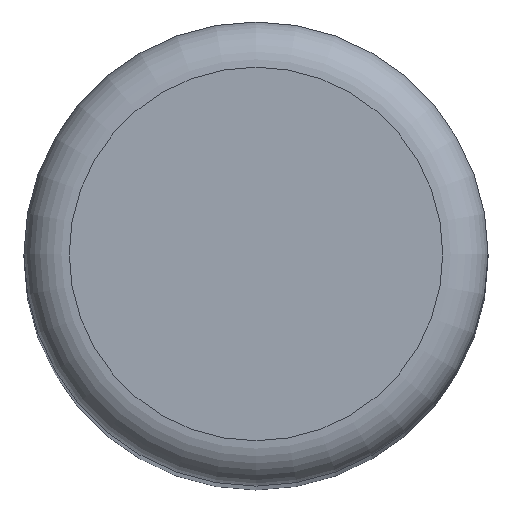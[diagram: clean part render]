
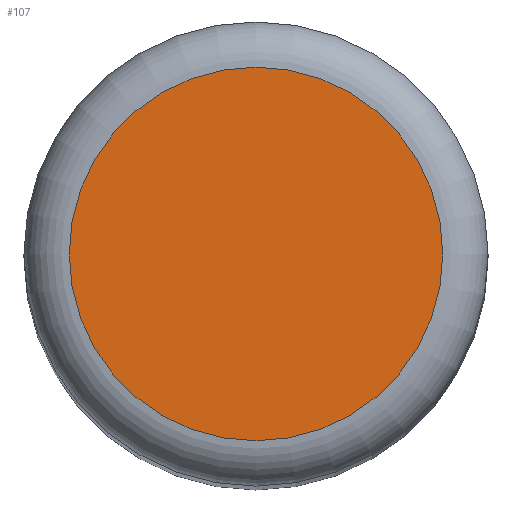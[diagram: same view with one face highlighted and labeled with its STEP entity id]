
A CAD part, top view. The second image highlights one B-rep face of the part: STEP entity #107.
In plain terms, the highlighted planar face has unit normal (0, 0, 1).
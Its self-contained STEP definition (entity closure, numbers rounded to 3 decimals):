
#78=CARTESIAN_POINT('',(8.25,0.,100.));
#79=VERTEX_POINT('',#78);
#87=CARTESIAN_POINT('',(0.,0.,100.));
#88=DIRECTION('',(1.,0.,0.));
#89=DIRECTION('',(0.,0.,1.));
#90=AXIS2_PLACEMENT_3D('',#87,#89,#88);
#91=CIRCLE('',#90,8.25);
#92=EDGE_CURVE('',#79,#79,#91,.T.);
#99=CARTESIAN_POINT('',(0.,0.,100.));
#100=DIRECTION('',(1.,0.,0.));
#101=DIRECTION('',(0.,0.,-1.));
#102=AXIS2_PLACEMENT_3D('',#99,#101,#100);
#103=PLANE('',#102);
#104=ORIENTED_EDGE('',*,*,#92,.F.);
#105=EDGE_LOOP('',(#104));
#106=FACE_OUTER_BOUND('',#105,.F.);
#107=ADVANCED_FACE('F4',(#106),#103,.F.);
